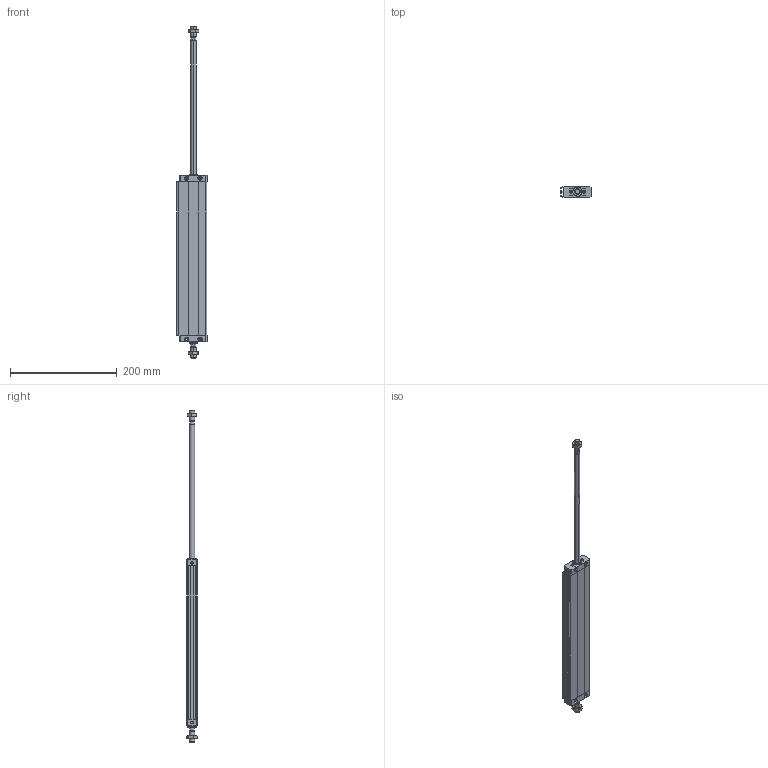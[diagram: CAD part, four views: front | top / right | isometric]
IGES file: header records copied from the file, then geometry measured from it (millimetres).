
Global section: file name: No Iges File Name specified; native system: Autodesk Inventor 2011; preprocessor: AutoDesk Inventor Iges Exporter R2011; author: airolcr1; date: 20101213.152905; units: millimetre
Bounding box: 56.25 x 20 x 622 mm (x, y, z)
Volume: 223165 mm3; surface area: 113546 mm2
Topology: 6 solids, 6 shells, 282 faces, 664 edges, 392 vertices
Faces by surface type: bspline 117, plane 97, cone 36, cylinder 18, revolution 14
